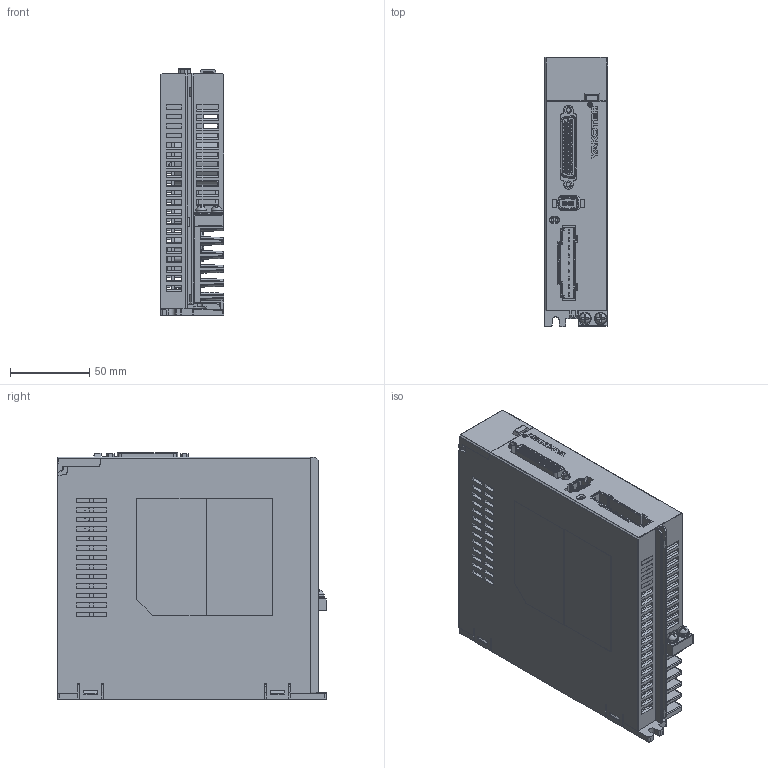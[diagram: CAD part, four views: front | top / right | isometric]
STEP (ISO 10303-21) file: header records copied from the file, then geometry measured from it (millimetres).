
FILE_DESCRIPTION((''),'2;1');
FILE_NAME('AS2-PLUS-BASE_ASM','2020-08-17T',('Administrator'),(''),'PRO/ENGINEER BY PARAMETRIC TECHNOLOGY CORPORATION, 2010280','PRO/ENGINEER BY PARAMETRIC TECHNOLOGY CORPORATION, 2010280','');
FILE_SCHEMA(('CONFIG_CONTROL_DESIGN','SHAPE_APPEARANCE_LAYERS_GROUPS'));
Products named in the file (1): AS2-PLUS-BASE_ASM
Bounding box: 40.2 x 170 x 155.67 mm (x, y, z)
Volume: 392063.8 mm3; surface area: 263706.3 mm2
Topology: 2 solids, 2 shells, 3976 faces, 10713 edges, 6868 vertices
Faces by surface type: plane 2407, cylinder 917, cone 232, bspline 182, extrusion 107, sphere 74, torus 57
Entity records: 153671 total; most frequent: CARTESIAN_POINT 36640, ORIENTED_EDGE 21336, DIRECTION 18662, EDGE_CURVE 10668, VECTOR 7514, LINE 7407, VERTEX_POINT 6868, AXIS2_PLACEMENT_3D 5574
